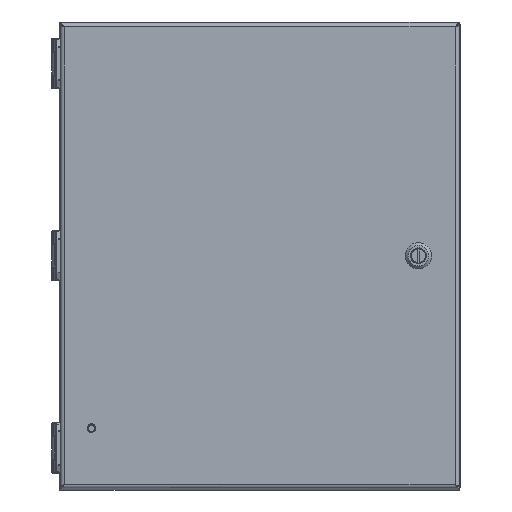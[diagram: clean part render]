
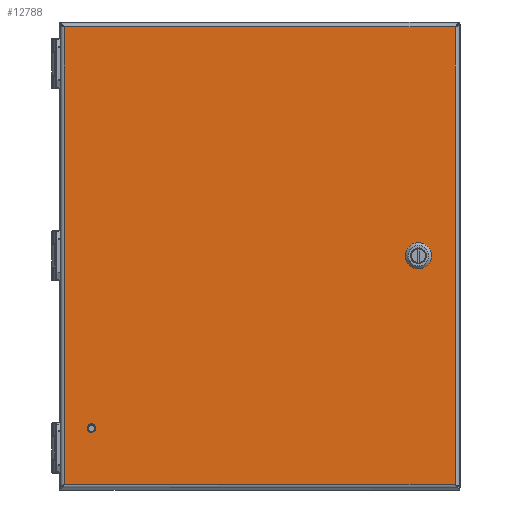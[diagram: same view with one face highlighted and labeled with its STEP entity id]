
A CAD part, top view. The second image highlights one B-rep face of the part: STEP entity #12788.
In plain terms, the highlighted planar face has unit normal (0, 0, 1).
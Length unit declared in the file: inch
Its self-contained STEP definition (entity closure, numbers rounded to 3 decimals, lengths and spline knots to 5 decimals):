
#10533=CARTESIAN_POINT('',(-5.035,-5.16,0.81));
#10534=DIRECTION('',(0.,0.,1.));
#10535=DIRECTION('',(-1.,0.,0.));
#10536=AXIS2_PLACEMENT_3D('',#10533,#10534,#10535);
#10541=CARTESIAN_POINT('',(-5.035,-5.16,0.81));
#10542=DIRECTION('',(0.,0.,1.));
#10543=DIRECTION('',(1.,0.,0.));
#10544=AXIS2_PLACEMENT_3D('',#10541,#10542,#10543);
#10549=DIRECTION('',(0.707,0.707,0.));
#10550=VECTOR('',#10549,0.30984);
#10551=CARTESIAN_POINT('',(4.44447,0.08845,0.81));
#10552=LINE('',#10551,#10550);
#10556=CARTESIAN_POINT('',(4.752,0.,0.81));
#10557=DIRECTION('',(0.,0.,1.));
#10558=DIRECTION('',(-0.961,0.276,0.));
#10559=AXIS2_PLACEMENT_3D('',#10556,#10557,#10558);
#10564=DIRECTION('',(-0.707,0.707,0.));
#10565=VECTOR('',#10564,0.30984);
#10566=CARTESIAN_POINT('',(4.66355,-0.30753,0.81));
#10567=LINE('',#10566,#10565);
#10571=CARTESIAN_POINT('',(4.752,0.,0.81));
#10572=DIRECTION('',(0.,0.,1.));
#10573=DIRECTION('',(-0.276,-0.961,0.));
#10574=AXIS2_PLACEMENT_3D('',#10571,#10572,#10573);
#10579=DIRECTION('',(-0.707,-0.707,0.));
#10580=VECTOR('',#10579,0.30984);
#10581=CARTESIAN_POINT('',(5.05953,-0.08845,0.81));
#10582=LINE('',#10581,#10580);
#10586=CARTESIAN_POINT('',(4.752,0.,0.81));
#10587=DIRECTION('',(0.,0.,1.));
#10588=DIRECTION('',(0.961,-0.276,0.));
#10589=AXIS2_PLACEMENT_3D('',#10586,#10587,#10588);
#10594=DIRECTION('',(0.707,-0.707,0.));
#10595=VECTOR('',#10594,0.30984);
#10596=CARTESIAN_POINT('',(4.84045,0.30753,0.81));
#10597=LINE('',#10596,#10595);
#10601=CARTESIAN_POINT('',(4.752,0.,0.81));
#10602=DIRECTION('',(0.,0.,1.));
#10603=DIRECTION('',(0.276,0.961,0.));
#10604=AXIS2_PLACEMENT_3D('',#10601,#10602,#10603);
#10609=DIRECTION('',(1.,0.,0.));
#10610=VECTOR('',#10609,11.7);
#10611=CARTESIAN_POINT('',(-5.85,-6.85,0.81));
#10612=LINE('',#10611,#10610);
#10701=DIRECTION('',(0.,1.,0.));
#10702=VECTOR('',#10701,13.7);
#10703=CARTESIAN_POINT('',(5.85,-6.85,0.81));
#10704=LINE('',#10703,#10702);
#10751=DIRECTION('',(-1.,0.,0.));
#10752=VECTOR('',#10751,11.7);
#10753=CARTESIAN_POINT('',(5.85,6.85,0.81));
#10754=LINE('',#10753,#10752);
#10850=DIRECTION('',(0.,-1.,0.));
#10851=VECTOR('',#10850,13.7);
#10852=CARTESIAN_POINT('',(-5.85,6.85,0.81));
#10853=LINE('',#10852,#10851);
#12461=CARTESIAN_POINT('',(-5.85,6.85,0.81));
#12462=CARTESIAN_POINT('',(-5.85,-6.85,0.81));
#12463=VERTEX_POINT('',#12461);
#12464=VERTEX_POINT('',#12462);
#12465=CARTESIAN_POINT('',(5.85,-6.85,0.81));
#12466=CARTESIAN_POINT('',(5.85,6.85,0.81));
#12467=VERTEX_POINT('',#12465);
#12468=VERTEX_POINT('',#12466);
#12547=CARTESIAN_POINT('',(-5.13305,-5.16,0.81));
#12548=CARTESIAN_POINT('',(-4.93695,-5.16,0.81));
#12549=VERTEX_POINT('',#12547);
#12550=VERTEX_POINT('',#12548);
#12555=CARTESIAN_POINT('',(4.44447,0.08845,0.81));
#12556=CARTESIAN_POINT('',(4.66355,0.30753,0.81));
#12557=VERTEX_POINT('',#12555);
#12558=VERTEX_POINT('',#12556);
#12559=CARTESIAN_POINT('',(4.84045,0.30753,0.81));
#12560=VERTEX_POINT('',#12559);
#12561=CARTESIAN_POINT('',(5.05953,0.08845,0.81));
#12562=VERTEX_POINT('',#12561);
#12563=CARTESIAN_POINT('',(5.05953,-0.08845,0.81));
#12564=VERTEX_POINT('',#12563);
#12565=CARTESIAN_POINT('',(4.84045,-0.30753,0.81));
#12566=VERTEX_POINT('',#12565);
#12567=CARTESIAN_POINT('',(4.66355,-0.30753,0.81));
#12568=VERTEX_POINT('',#12567);
#12569=CARTESIAN_POINT('',(4.44447,-0.08845,0.81));
#12570=VERTEX_POINT('',#12569);
#12749=CARTESIAN_POINT('',(0.,0.,0.81));
#12750=DIRECTION('',(0.,0.,1.));
#12751=DIRECTION('',(1.,0.,0.));
#12752=AXIS2_PLACEMENT_3D('',#12749,#12750,#12751);
#12753=PLANE('',#12752);
#12755=ORIENTED_EDGE('',*,*,#12754,.F.);
#12757=ORIENTED_EDGE('',*,*,#12756,.F.);
#12759=ORIENTED_EDGE('',*,*,#12758,.F.);
#12761=ORIENTED_EDGE('',*,*,#12760,.F.);
#12762=EDGE_LOOP('',(#12755,#12757,#12759,#12761));
#12763=FACE_OUTER_BOUND('',#12762,.F.);
#12765=ORIENTED_EDGE('',*,*,#12764,.T.);
#12767=ORIENTED_EDGE('',*,*,#12766,.T.);
#12768=EDGE_LOOP('',(#12765,#12767));
#12769=FACE_BOUND('',#12768,.F.);
#12771=ORIENTED_EDGE('',*,*,#12770,.F.);
#12773=ORIENTED_EDGE('',*,*,#12772,.T.);
#12775=ORIENTED_EDGE('',*,*,#12774,.F.);
#12777=ORIENTED_EDGE('',*,*,#12776,.T.);
#12779=ORIENTED_EDGE('',*,*,#12778,.F.);
#12781=ORIENTED_EDGE('',*,*,#12780,.T.);
#12783=ORIENTED_EDGE('',*,*,#12782,.F.);
#12785=ORIENTED_EDGE('',*,*,#12784,.T.);
#12786=EDGE_LOOP('',(#12771,#12773,#12775,#12777,#12779,#12781,#12783,#12785));
#12787=FACE_BOUND('',#12786,.F.);
#10537=CIRCLE('',#10536,0.09805);
#10545=CIRCLE('',#10544,0.09805);
#10560=CIRCLE('',#10559,0.32);
#10575=CIRCLE('',#10574,0.32);
#10590=CIRCLE('',#10589,0.32);
#10605=CIRCLE('',#10604,0.32);
#12754=EDGE_CURVE('',#12464,#12467,#10612,.T.);
#12756=EDGE_CURVE('',#12463,#12464,#10853,.T.);
#12758=EDGE_CURVE('',#12468,#12463,#10754,.T.);
#12760=EDGE_CURVE('',#12467,#12468,#10704,.T.);
#12764=EDGE_CURVE('',#12549,#12550,#10537,.T.);
#12766=EDGE_CURVE('',#12550,#12549,#10545,.T.);
#12770=EDGE_CURVE('',#12557,#12558,#10552,.T.);
#12772=EDGE_CURVE('',#12557,#12570,#10560,.T.);
#12774=EDGE_CURVE('',#12568,#12570,#10567,.T.);
#12776=EDGE_CURVE('',#12568,#12566,#10575,.T.);
#12778=EDGE_CURVE('',#12564,#12566,#10582,.T.);
#12780=EDGE_CURVE('',#12564,#12562,#10590,.T.);
#12782=EDGE_CURVE('',#12560,#12562,#10597,.T.);
#12784=EDGE_CURVE('',#12560,#12558,#10605,.T.);
#12788=ADVANCED_FACE('',(#12763,#12769,#12787),#12753,.T.);
